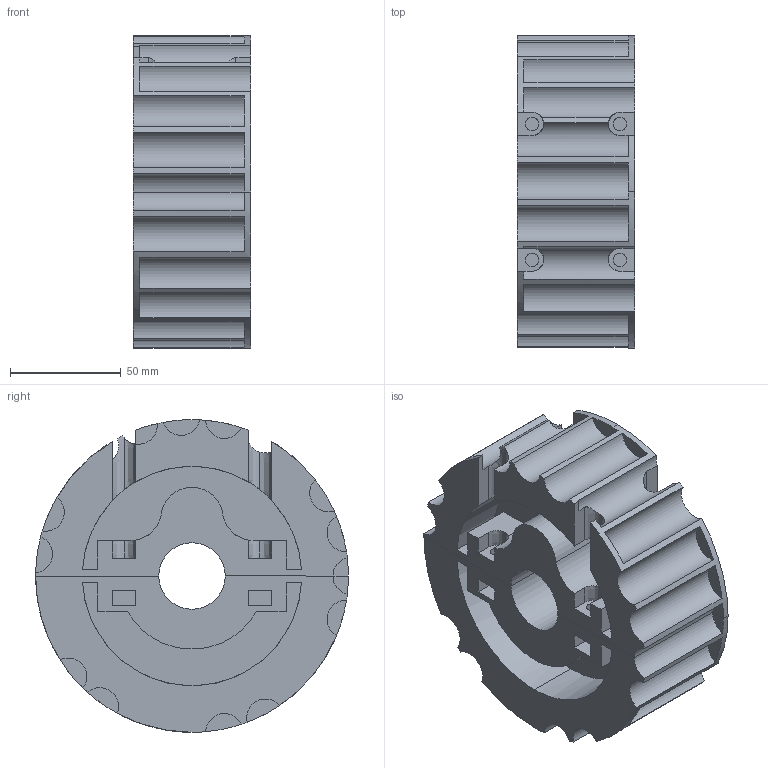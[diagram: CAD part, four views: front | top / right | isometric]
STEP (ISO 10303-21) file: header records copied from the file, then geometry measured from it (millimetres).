
FILE_DESCRIPTION(('CATIA V5 STEP Exchange','CAx-IF Rec.Pracs.--- Model Styling and Organization---1.4--- 2014-01-23'),'2;1');
FILE_NAME('C:\Users\Admin\Desktop\BUTUN-PARCALAR\alhan\312\314KI2223.stp','2022-03-23T20:01:20+00:00',('none'),('none'),'CATIA Version 5-6 Release 2017','CATIA V5 STEP AP214','none');
FILE_SCHEMA(('AUTOMOTIVE_DESIGN { 1 0 10303 214 1 1 1 1 }'));
Length unit declared in the file: millimetre
Products named in the file (1): 314KI2223
Bounding box: 53 x 141 x 141 mm (x, y, z)
Volume: 512741.5 mm3; surface area: 106229.2 mm2
Topology: 2 solids, 2 shells, 184 faces, 530 edges, 356 vertices
Faces by surface type: plane 103, cylinder 65, extrusion 16
Entity records: 5698 total; most frequent: CARTESIAN_POINT 1311, ORIENTED_EDGE 1060, DIRECTION 626, EDGE_CURVE 530, VERTEX_POINT 356, VECTOR 316, LINE 300, AXIS2_PLACEMENT_3D 253
